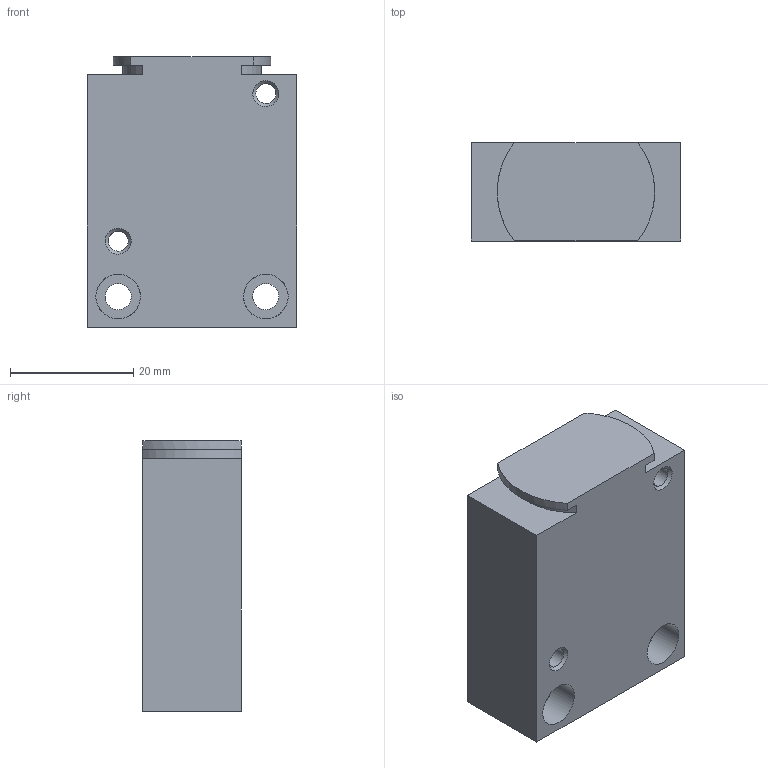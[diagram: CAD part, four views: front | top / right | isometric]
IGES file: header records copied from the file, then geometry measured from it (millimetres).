
Global section: file name: 300_05_00; native system: Autodesk Inventor 2014; preprocessor: unknown; author: A. Manieri; organization: Pneumax S.p.A.; date: 20161004.165012; units: millimetre
Bounding box: 34 x 16 x 44 mm (x, y, z)
Volume: 21336.2 mm3; surface area: 6705.8 mm2
Topology: 1 solids, 1 shells, 34 faces, 90 edges, 64 vertices
Faces by surface type: bspline 34
